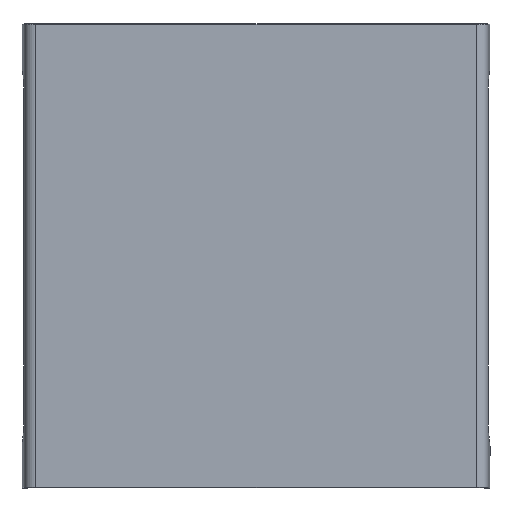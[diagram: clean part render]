
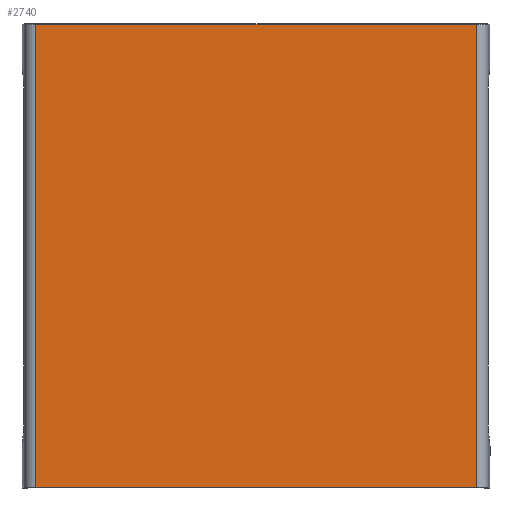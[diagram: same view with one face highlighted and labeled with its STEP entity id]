
A CAD part, top view. The second image highlights one B-rep face of the part: STEP entity #2740.
In plain terms, the highlighted planar face has unit normal (0, 0, 1).
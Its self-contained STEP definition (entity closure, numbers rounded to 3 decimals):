
#1848=CARTESIAN_POINT('',(-665.213,699.,19.0));
#1849=VERTEX_POINT('',#1848);
#1874=CARTESIAN_POINT('',(665.213,699.0,19.0));
#1875=VERTEX_POINT('',#1874);
#1876=CARTESIAN_POINT('',(-665.213,699.0,19.0));
#1877=DIRECTION('',(1.0,0.0,0.0));
#1878=VECTOR('',#1877,1330.426);
#1879=LINE('',#1876,#1878);
#1880=EDGE_CURVE('',#1849,#1875,#1879,.T.);
#2337=CARTESIAN_POINT('',(665.213,-699.,19.0));
#2338=VERTEX_POINT('',#2337);
#2371=CARTESIAN_POINT('',(-665.213,-699.,19.0));
#2372=VERTEX_POINT('',#2371);
#2373=CARTESIAN_POINT('',(665.213,-699.,19.0));
#2374=DIRECTION('',(-1.0,0.0,0.0));
#2375=VECTOR('',#2374,1330.426);
#2376=LINE('',#2373,#2375);
#2377=EDGE_CURVE('',#2338,#2372,#2376,.T.);
#2708=CARTESIAN_POINT('',(665.213,-699.,19.0));
#2709=DIRECTION('',(0.0,1.0,0.0));
#2710=VECTOR('',#2709,1398.);
#2711=LINE('',#2708,#2710);
#2712=EDGE_CURVE('',#2338,#1875,#2711,.T.);
#2724=CARTESIAN_POINT('',(0.,0.,19.0));
#2725=DIRECTION('',(0.0,0.0,1.0));
#2726=DIRECTION('',(1.0,0.0,0.0));
#2727=AXIS2_PLACEMENT_3D('',#2724,#2725,#2726);
#2728=PLANE('',#2727);
#2729=ORIENTED_EDGE('',*,*,#1880,.F.);
#2730=CARTESIAN_POINT('',(-665.213,699.,19.0));
#2731=DIRECTION('',(0.0,-1.0,0.0));
#2732=VECTOR('',#2731,1398.);
#2733=LINE('',#2730,#2732);
#2734=EDGE_CURVE('',#1849,#2372,#2733,.T.);
#2735=ORIENTED_EDGE('',*,*,#2734,.T.);
#2736=ORIENTED_EDGE('',*,*,#2377,.F.);
#2737=ORIENTED_EDGE('',*,*,#2712,.T.);
#2738=EDGE_LOOP('',(#2729,#2735,#2736,#2737));
#2739=FACE_OUTER_BOUND('',#2738,.T.);
#2740=ADVANCED_FACE('',(#2739),#2728,.T.);
